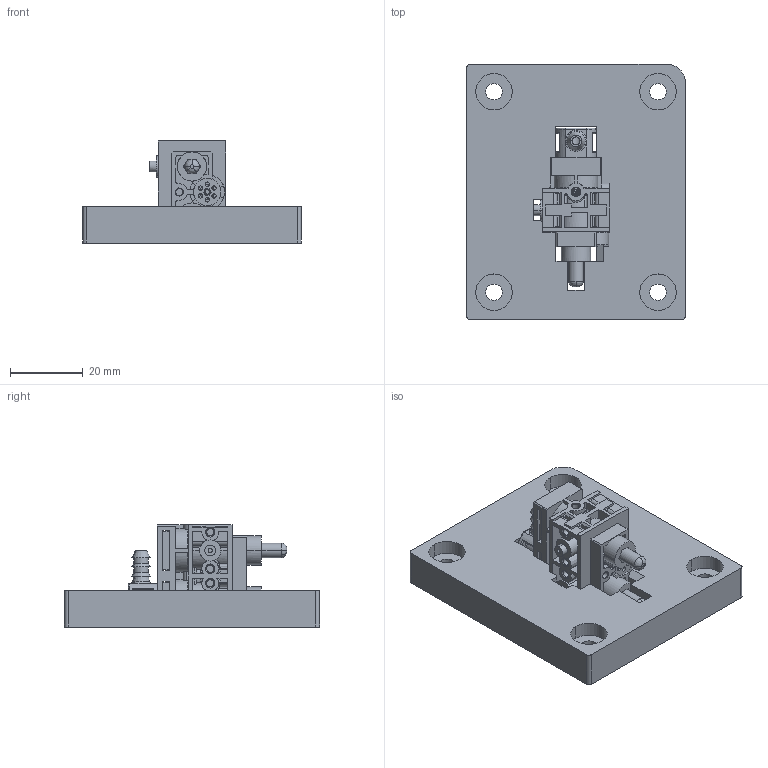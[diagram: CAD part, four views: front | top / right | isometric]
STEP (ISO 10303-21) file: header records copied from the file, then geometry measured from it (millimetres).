
FILE_DESCRIPTION(('CATIA V5 STEP Exchange'),'2;1');
FILE_NAME('D:\姚明阳\1、工装图纸\2、腰托阀（开关）治具工装 -2022.11.26更新\AGZL01 腰托阀压钢珠工装1\AGZL01 设计文件（pdf+stp）\AGZL01.02与工件配合关系示意.stp','2022-12-28T03:23:07+00:00',('none'),('none'),'CATIA Version 5 Release 21 GA (IN-10)','CATIA V5 STEP AP214','none');
FILE_SCHEMA(('AUTOMOTIVE_DESIGN { 1 0 10303 214 1 1 1 1 }'));
Length unit declared in the file: millimetre
Products named in the file (16): AGZL01.00_V1; AGZL01.02_V2; BPC0010256; BPC0010200; BPC0010206; BPC0010207; BPC0010224; BSP0010038; BPC0010201; BPC0010210; BPC0010136; BSP0010037; BPC0010202; BPC0010204; SHT0002209; SHT0002205
Assembly tree (25 placements, depth 3):
  AGZL01.00_V1
    AGZL01.02_V2
    BPC0010256
      BPC0010200
      BPC0010206
      BPC0010207
      BPC0010224
      BSP0010038
      BPC0010201  x2
      BPC0010210  x4
      BPC0010136  x4
      BSP0010037  x2
      BPC0010202
      BPC0010204
      SHT0002209  x2
      SHT0002205  x2
Bounding box: 60 x 70 x 28 mm (x, y, z)
Volume: 43257.9 mm3; surface area: 25221.7 mm2
Topology: 24 solids, 28 shells, 1132 faces, 3025 edges, 1969 vertices
Faces by surface type: plane 474, cylinder 398, cone 92, torus 74, bspline 44, revolution 18, sphere 17, extrusion 15
Entity records: 37067 total; most frequent: CARTESIAN_POINT 13749, ORIENTED_EDGE 5312, DIRECTION 3672, EDGE_CURVE 2656, VERTEX_POINT 1743, AXIS2_PLACEMENT_3D 1506, VECTOR 1433, LINE 1418
